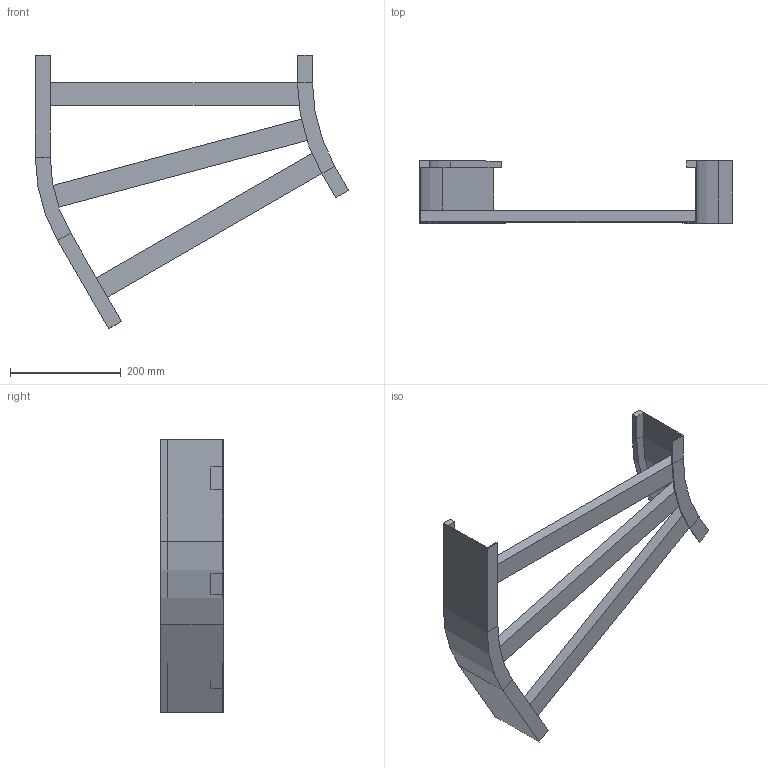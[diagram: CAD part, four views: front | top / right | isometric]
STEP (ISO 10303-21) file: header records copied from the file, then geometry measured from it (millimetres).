
FILE_DESCRIPTION (( 'STEP AP214' ), '1' );
FILE_NAME ('B2_12B3J500.step', '2025-02-21T15:09:35', ( '' ), ( '' ), 'SwSTEP 2.0', 'SolidWorks 2023', '' );
FILE_SCHEMA (( 'AUTOMOTIVE_DESIGN' ));
Length unit declared in the file: millimetre
Products named in the file (5): TRAVERSINO_L513; B2_LONGH.INTERNO 30°_H112.5_R300; B2_12B3J500; B2_LONGH.ESTERNO 30°_H112.5_R300+500; TRAVERSINO_500
Assembly tree (5 placements, depth 2):
  B2_12B3J500
    B2_LONGH.INTERNO 30°_H112.5_R300
    B2_LONGH.ESTERNO 30°_H112.5_R300+500
    TRAVERSINO_500  x2
    TRAVERSINO_L513
Bounding box: 565.19 x 112.5 x 493.3 mm (x, y, z)
Volume: 1584294.6 mm3; surface area: 432068.7 mm2
Topology: 5 solids, 5 shells, 70 faces, 148 edges, 88 vertices
Faces by surface type: plane 62, cylinder 8
Entity records: 1822 total; most frequent: DIRECTION 296, CARTESIAN_POINT 288, ORIENTED_EDGE 272, EDGE_CURVE 136, LINE 120, VECTOR 120, AXIS2_PLACEMENT_3D 88, VERTEX_POINT 80
